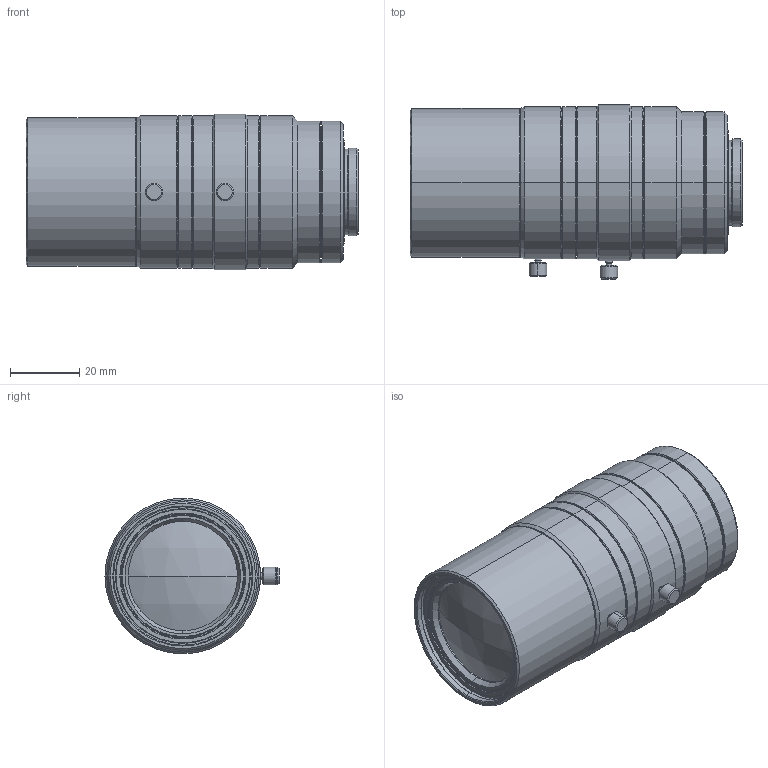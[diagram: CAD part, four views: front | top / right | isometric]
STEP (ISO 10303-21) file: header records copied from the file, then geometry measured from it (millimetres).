
FILE_DESCRIPTION (( 'STEP AP214' ), '1' );
FILE_NAME ('VS-H1618-IRC_11.STEP', '2018-06-28T04:39:12', ( '' ), ( '' ), 'SwSTEP 2.0', 'SolidWorks 2018', '' );
FILE_SCHEMA (( 'AUTOMOTIVE_DESIGN' ));
Length unit declared in the file: millimetre
Products named in the file (1): VS-H1618-IRC_11
Bounding box: 95.97 x 50.3 x 45 mm (x, y, z)
Volume: 128882.7 mm3; surface area: 20234.1 mm2
Topology: 1 solids, 1 shells, 174 faces, 350 edges, 208 vertices
Faces by surface type: cone 88, cylinder 52, plane 30, sphere 4
Entity records: 4678 total; most frequent: DIRECTION 894, CARTESIAN_POINT 865, ORIENTED_EDGE 700, AXIS2_PLACEMENT_3D 377, EDGE_CURVE 350, VERTEX_POINT 208, EDGE_LOOP 204, CIRCLE 202
